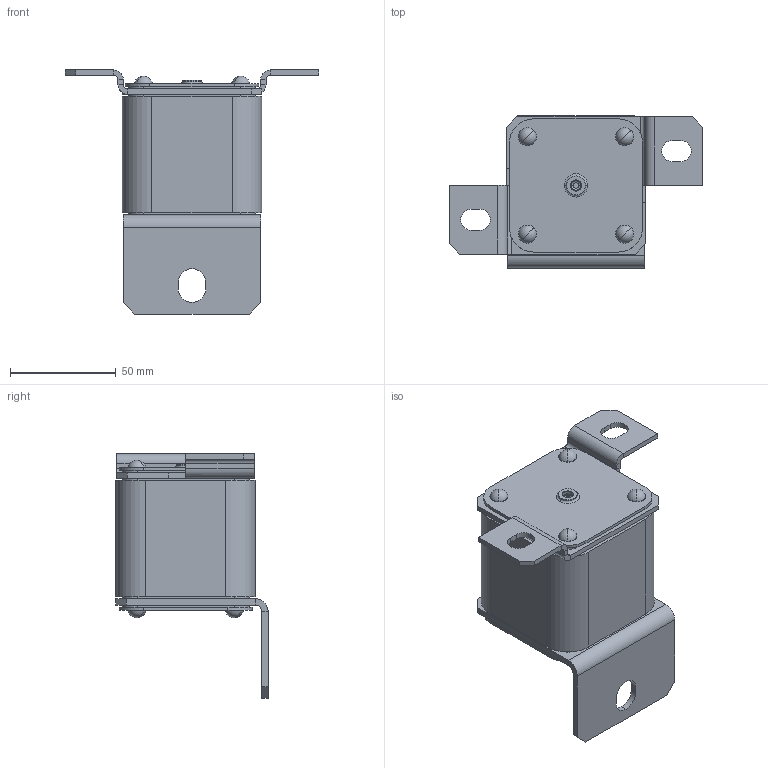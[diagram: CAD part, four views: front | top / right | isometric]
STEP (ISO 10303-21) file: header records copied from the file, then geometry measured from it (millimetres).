
FILE_DESCRIPTION (( 'STEP AP214' ), '1' );
FILE_NAME ('ﾏﾏ60ﾑ-37,38,39,40ﾍ0-XXXX-XXXX-ﾊﾝﾀﾇ.STEP', '2023-05-02T05:15:07', ( '' ), ( '' ), 'SwSTEP 2.0', 'SolidWorks 2018', '' );
FILE_SCHEMA (( 'AUTOMOTIVE_DESIGN' ));
Length unit declared in the file: millimetre
Products named in the file (1): ﾏﾏ60ﾑ-37,38,39,40ﾍ0-XXXX-XXXX-ﾊﾝﾀﾇ
Bounding box: 120 x 72 x 115.5 mm (x, y, z)
Volume: 282041.4 mm3; surface area: 51025.6 mm2
Topology: 1 solids, 11 shells, 370 faces, 829 edges, 516 vertices
Faces by surface type: plane 197, cylinder 125, torus 28, sphere 16, cone 4
Entity records: 14401 total; most frequent: DIRECTION 1963, CARTESIAN_POINT 1716, ORIENTED_EDGE 1658, EDGE_CURVE 829, AXIS2_PLACEMENT_3D 763, VERTEX_POINT 516, LINE 437, VECTOR 437
